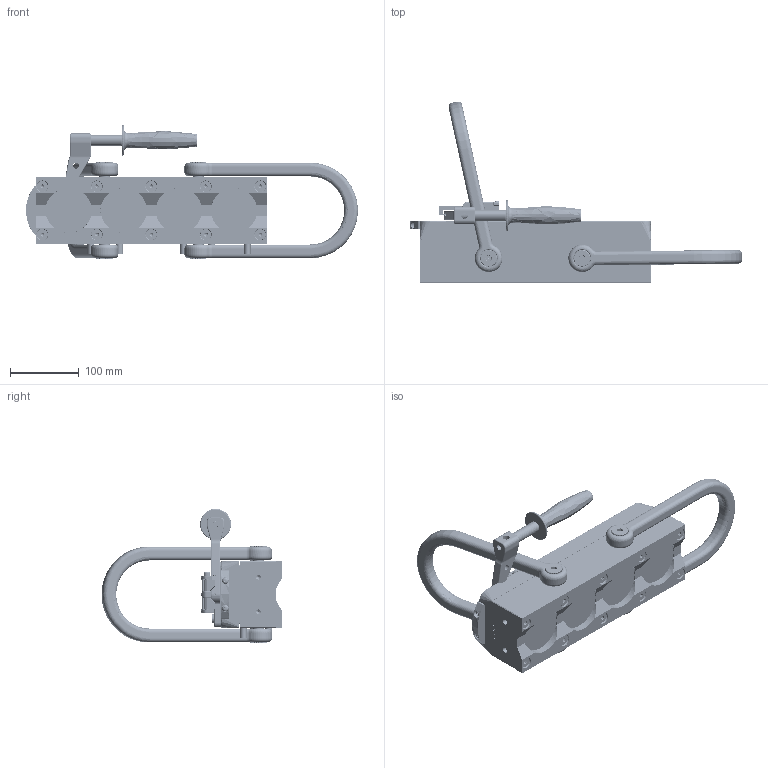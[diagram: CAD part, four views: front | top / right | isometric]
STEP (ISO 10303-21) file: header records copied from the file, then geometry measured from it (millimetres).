
FILE_DESCRIPTION (( 'STEP AP214' ), '1' );
FILE_NAME ('8000418.STEP', '2020-03-09T20:26:23', ( '' ), ( '' ), 'SwSTEP 2.0', 'SolidWorks 2018', '' );
FILE_SCHEMA (( 'AUTOMOTIVE_DESIGN' ));
Length unit declared in the file: millimetre
Products named in the file (12): 7050053_p_defeature; 320393; 400018; 180059; 180410_92981A495; 7030008_p; 8000418; 7000080_p; 7010072_p; 180515_90278A334; 180438; 180138
Assembly tree (29 placements, depth 2):
  8000418
    7000080_p
    7010072_p
    180138  x6
    400018
    180059  x6
    180438
    7030008_p
    320393  x2
    180410_92981A495  x4
    180515_90278A334  x5
    7050053_p_defeature
Bounding box: 482.79 x 263.13 x 195.35 mm (x, y, z)
Volume: 3345810.8 mm3; surface area: 441127.9 mm2
Topology: 29 solids, 61 shells, 6291 faces, 15381 edges, 9252 vertices
Faces by surface type: cylinder 2395, plane 2144, cone 1178, bspline 353, torus 191, sphere 30
Entity records: 336419 total; most frequent: CARTESIAN_POINT 229879, ORIENTED_EDGE 17406, DIRECTION 15017, EDGE_CURVE 8703, AXIS2_PLACEMENT_3D 5631, VERTEX_POINT 5380, EDGE_LOOP 3759, LINE 3755
